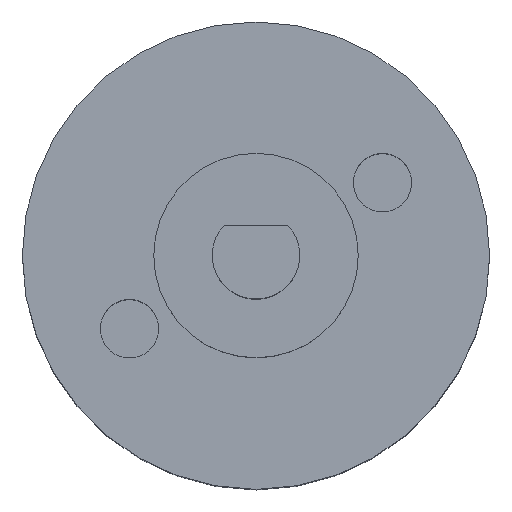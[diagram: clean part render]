
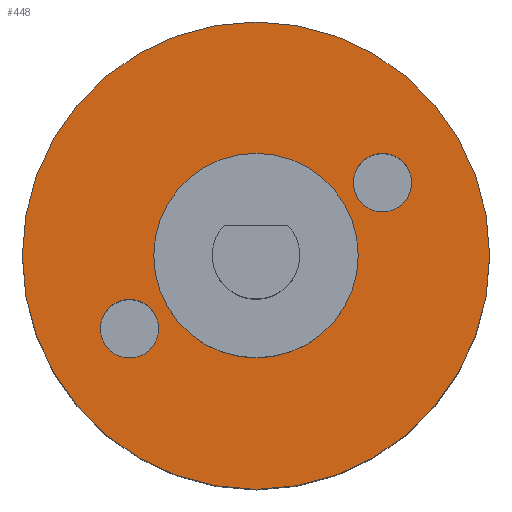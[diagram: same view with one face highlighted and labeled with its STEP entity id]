
A CAD part, top view. The second image highlights one B-rep face of the part: STEP entity #448.
In plain terms, the highlighted planar face has unit normal (0, 0, 1).
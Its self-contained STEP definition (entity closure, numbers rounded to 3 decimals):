
#19=FACE_BOUND('',#100,.T.);
#20=FACE_BOUND('',#101,.T.);
#21=FACE_BOUND('',#102,.T.);
#41=PLANE('',#507);
#68=FACE_OUTER_BOUND('',#99,.T.);
#99=EDGE_LOOP('',(#409,#410));
#100=EDGE_LOOP('',(#411));
#101=EDGE_LOOP('',(#412));
#102=EDGE_LOOP('',(#413,#414));
#183=CIRCLE('',#464,1.);
#185=CIRCLE('',#468,1.);
#195=CIRCLE('',#498,3.5);
#196=CIRCLE('',#499,3.5);
#197=CIRCLE('',#502,8.);
#198=CIRCLE('',#503,8.);
#201=VERTEX_POINT('',#642);
#203=VERTEX_POINT('',#649);
#235=VERTEX_POINT('',#748);
#236=VERTEX_POINT('',#750);
#237=VERTEX_POINT('',#755);
#238=VERTEX_POINT('',#756);
#241=EDGE_CURVE('',#201,#201,#183,.T.);
#244=EDGE_CURVE('',#203,#203,#185,.T.);
#292=EDGE_CURVE('',#236,#235,#195,.T.);
#293=EDGE_CURVE('',#235,#236,#196,.T.);
#294=EDGE_CURVE('',#237,#238,#197,.T.);
#295=EDGE_CURVE('',#238,#237,#198,.T.);
#409=ORIENTED_EDGE('',*,*,#294,.T.);
#410=ORIENTED_EDGE('',*,*,#295,.T.);
#411=ORIENTED_EDGE('',*,*,#241,.T.);
#412=ORIENTED_EDGE('',*,*,#244,.T.);
#413=ORIENTED_EDGE('',*,*,#292,.T.);
#414=ORIENTED_EDGE('',*,*,#293,.T.);
#448=ADVANCED_FACE('',(#68,#19,#20,#21),#41,.T.);
#464=AXIS2_PLACEMENT_3D('',#643,#512,#513);
#468=AXIS2_PLACEMENT_3D('',#650,#521,#522);
#498=AXIS2_PLACEMENT_3D('',#751,#619,#620);
#499=AXIS2_PLACEMENT_3D('',#752,#621,#622);
#502=AXIS2_PLACEMENT_3D('',#757,#627,#628);
#503=AXIS2_PLACEMENT_3D('',#758,#629,#630);
#507=AXIS2_PLACEMENT_3D('',#765,#638,#639);
#512=DIRECTION('center_axis',(0.,0.,-1.));
#513=DIRECTION('ref_axis',(1.,0.,0.));
#521=DIRECTION('center_axis',(0.,0.,-1.));
#522=DIRECTION('ref_axis',(1.,0.,0.));
#619=DIRECTION('center_axis',(0.,0.,-1.));
#620=DIRECTION('ref_axis',(1.,0.,0.));
#621=DIRECTION('center_axis',(0.,0.,-1.));
#622=DIRECTION('ref_axis',(1.,0.,0.));
#627=DIRECTION('center_axis',(0.,0.,1.));
#628=DIRECTION('ref_axis',(1.,0.,0.));
#629=DIRECTION('center_axis',(0.,0.,1.));
#630=DIRECTION('ref_axis',(1.,0.,0.));
#638=DIRECTION('center_axis',(0.,0.,1.));
#639=DIRECTION('ref_axis',(1.,0.,0.));
#642=CARTESIAN_POINT('',(3.33,2.5,12.5));
#643=CARTESIAN_POINT('Origin',(4.33,2.5,12.5));
#649=CARTESIAN_POINT('',(-5.33,-2.5,12.5));
#650=CARTESIAN_POINT('Origin',(-4.33,-2.5,12.5));
#748=CARTESIAN_POINT('',(-3.5,0.,12.5));
#750=CARTESIAN_POINT('',(3.5,0.,12.5));
#751=CARTESIAN_POINT('Origin',(0.,0.,
12.5));
#752=CARTESIAN_POINT('Origin',(0.,0.,
12.5));
#755=CARTESIAN_POINT('',(8.,0.,12.5));
#756=CARTESIAN_POINT('',(-8.,0.,12.5));
#757=CARTESIAN_POINT('Origin',(0.,0.,12.5));
#758=CARTESIAN_POINT('Origin',(0.,0.,12.5));
#765=CARTESIAN_POINT('Origin',(0.,0.,12.5));
